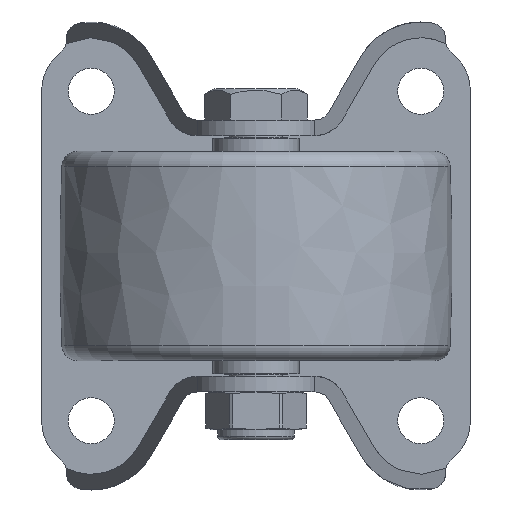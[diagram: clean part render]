
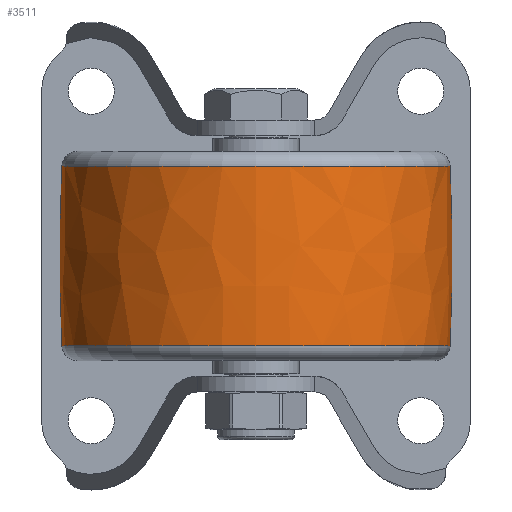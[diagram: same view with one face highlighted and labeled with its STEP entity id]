
A CAD part, front view. The second image highlights one B-rep face of the part: STEP entity #3511.
In plain terms, the highlighted free-form (B-spline) face has degree [3, 3] with [7, 4] control points.
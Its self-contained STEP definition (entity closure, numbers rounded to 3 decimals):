
#3279=CARTESIAN_POINT('',(0.,-362.75,0.));
#3280=DIRECTION('',(0.,0.,1.));
#3281=DIRECTION('',(0.043,0.999,0.));
#3282=AXIS2_PLACEMENT_3D('',#3279,#3280,#3281);
#3284=CARTESIAN_POINT('',(0.,362.75,0.));
#3285=DIRECTION('',(0.,0.,-1.));
#3286=DIRECTION('',(0.043,-0.999,0.));
#3287=AXIS2_PLACEMENT_3D('',#3284,#3285,#3286);
#3289=CARTESIAN_POINT('',(17.128,0.,0.));
#3290=DIRECTION('',(-1.,0.,0.));
#3291=DIRECTION('',(0.,1.,0.));
#3292=AXIS2_PLACEMENT_3D('',#3289,#3290,#3291);
#3314=CARTESIAN_POINT('',(-17.128,0.,0.));
#3315=DIRECTION('',(-1.,0.,0.));
#3316=DIRECTION('',(0.,1.,0.));
#3317=AXIS2_PLACEMENT_3D('',#3314,#3315,#3316);
#3372=CARTESIAN_POINT('',(17.128,37.133,0.));
#3374=VERTEX_POINT('',#3372);
#3375=CARTESIAN_POINT('',(-17.128,37.133,0.));
#3376=VERTEX_POINT('',#3375);
#3388=CARTESIAN_POINT('',(17.128,-37.133,0.));
#3390=VERTEX_POINT('',#3388);
#3391=CARTESIAN_POINT('',(-17.128,-37.133,0.));
#3392=VERTEX_POINT('',#3391);
#3473=CARTESIAN_POINT('',(-17.813,-37.03,
2.33));
#3474=CARTESIAN_POINT('',(-5.942,-37.558,
2.363));
#3475=CARTESIAN_POINT('',(5.942,-37.558,2.363));
#3476=CARTESIAN_POINT('',(17.813,-37.03,2.33));
#3477=CARTESIAN_POINT('',(-17.813,-38.464,
-20.459));
#3478=CARTESIAN_POINT('',(-5.942,-39.012,
-20.75));
#3479=CARTESIAN_POINT('',(5.942,-39.012,
-20.75));
#3480=CARTESIAN_POINT('',(17.813,-38.464,
-20.459));
#3481=CARTESIAN_POINT('',(-17.813,-22.833,
-37.103));
#3482=CARTESIAN_POINT('',(-5.942,-23.159,
-37.632));
#3483=CARTESIAN_POINT('',(5.942,-23.159,
-37.632));
#3484=CARTESIAN_POINT('',(17.813,-22.833,
-37.103));
#3485=CARTESIAN_POINT('',(-17.813,0.,
-37.103));
#3486=CARTESIAN_POINT('',(-5.942,0.,
-37.632));
#3487=CARTESIAN_POINT('',(5.942,0.,
-37.632));
#3488=CARTESIAN_POINT('',(17.813,0.,
-37.103));
#3489=CARTESIAN_POINT('',(-17.813,22.833,
-37.103));
#3490=CARTESIAN_POINT('',(-5.942,23.159,
-37.632));
#3491=CARTESIAN_POINT('',(5.942,23.159,-37.632));
#3492=CARTESIAN_POINT('',(17.813,22.833,-37.103));
#3493=CARTESIAN_POINT('',(-17.813,38.464,
-20.459));
#3494=CARTESIAN_POINT('',(-5.942,39.012,
-20.75));
#3495=CARTESIAN_POINT('',(5.942,39.012,-20.75));
#3496=CARTESIAN_POINT('',(17.813,38.464,-20.459));
#3497=CARTESIAN_POINT('',(-17.813,37.03,2.33));
#3498=CARTESIAN_POINT('',(-5.942,37.558,2.363));
#3499=CARTESIAN_POINT('',(5.942,37.558,2.363));
#3500=CARTESIAN_POINT('',(17.813,37.03,2.33));
#3501=(BOUNDED_SURFACE()B_SPLINE_SURFACE(3,3,((#3473,#3474,#3475,#3476),(#3477,
#3478,#3479,#3480),(#3481,#3482,#3483,#3484),(#3485,#3486,#3487,#3488),(#3489,
#3490,#3491,#3492),(#3493,#3494,#3495,#3496),(#3497,#3498,#3499,#3500)),
.UNSPECIFIED.,.F.,.F.,.F.)B_SPLINE_SURFACE_WITH_KNOTS((4,3,4),(4,4),(0.,1.,
2.),(0.,1.),.UNSPECIFIED.)GEOMETRIC_REPRESENTATION_ITEM()RATIONAL_B_SPLINE_SURFACE(((1.188,1.187,1.187,1.188),(
0.938,0.937,0.937,0.938),(
0.938,0.937,0.937,0.938),(
1.188,1.187,1.187,1.188),(
0.938,0.937,0.937,0.938),(
0.938,0.937,0.937,0.938),(
1.188,1.187,1.187,1.188)))REPRESENTATION_ITEM('')SURFACE());
#3503=ORIENTED_EDGE('',*,*,#3502,.T.);
#3505=ORIENTED_EDGE('',*,*,#3504,.T.);
#3507=ORIENTED_EDGE('',*,*,#3506,.F.);
#3508=ORIENTED_EDGE('',*,*,#3466,.F.);
#3509=EDGE_LOOP('',(#3503,#3505,#3507,#3508));
#3510=FACE_OUTER_BOUND('',#3509,.F.);
#3283=CIRCLE('',#3282,400.25);
#3288=CIRCLE('',#3287,400.25);
#3293=CIRCLE('',#3292,37.133);
#3318=CIRCLE('',#3317,37.133);
#3466=EDGE_CURVE('',#3374,#3390,#3293,.T.);
#3502=EDGE_CURVE('',#3374,#3376,#3283,.T.);
#3504=EDGE_CURVE('',#3376,#3392,#3318,.T.);
#3506=EDGE_CURVE('',#3390,#3392,#3288,.T.);
#3511=ADVANCED_FACE('',(#3510),#3501,.T.);
